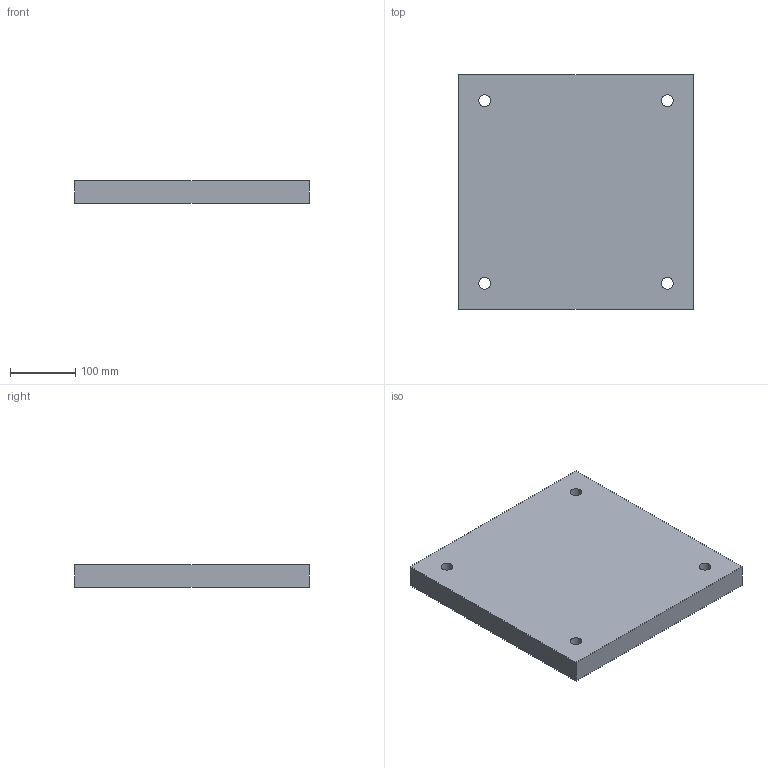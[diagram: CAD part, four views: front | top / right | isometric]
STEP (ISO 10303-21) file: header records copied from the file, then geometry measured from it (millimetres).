
FILE_DESCRIPTION(('Open CASCADE Model'),'2;1');
FILE_NAME('Open CASCADE Shape Model','2026-10-15T15:10:04',('Author'),( 'Open CASCADE'),'Open CASCADE STEP processor 8.0','Open CASCADE 8.0' ,'Unknown');
FILE_SCHEMA(('AUTOMOTIVE_DESIGN { 1 0 10303 214 1 1 1 1 }'));
Length unit declared in the file: millimetre
Products named in the file (1): BASE_PORTICO_360x360x35 43
Bounding box: 360 x 360 x 35 mm (x, y, z)
Volume: 4500374.3 mm3; surface area: 315481.1 mm2
Topology: 1 solids, 1 shells, 10 faces, 24 edges, 16 vertices
Faces by surface type: plane 6, cylinder 4
Full cylindrical faces by diameter (mm): 18 x4
Entity records: 634 total; most frequent: DIRECTION 102, CARTESIAN_POINT 99, LINE 56, VECTOR 56, ORIENTED_EDGE 48, PCURVE 48, DEFINITIONAL_REPRESENTATION 48, EDGE_CURVE 24
